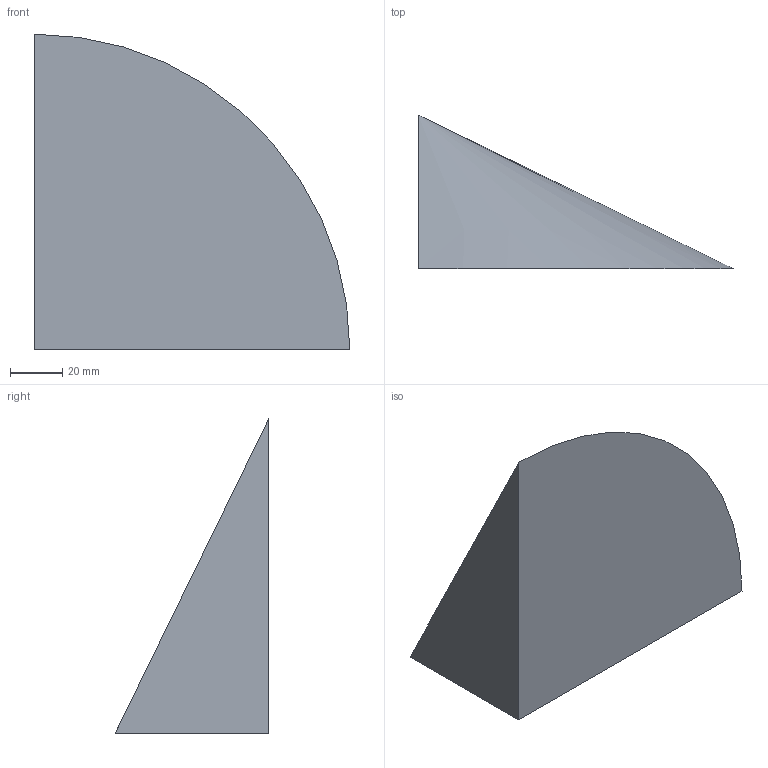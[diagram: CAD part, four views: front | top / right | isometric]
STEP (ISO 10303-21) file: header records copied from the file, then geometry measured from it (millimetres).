
FILE_DESCRIPTION(('CATIA V5 STEP Exchange'),'2;1');
FILE_NAME('C:\_Andres\UNIVERSIDAD\IQS\ASIGNATURAS\DAO\EXF\EXF-16172c\2inicio\Pares_Guanybens_Ej07_v21.stp','2017-03-05T21:18:13+00:00',('none'),('none'),'CATIA Version 5-6 Release 2014 SP1 HF18','CATIA V5 STEP AP203','none');
FILE_SCHEMA(('CONFIG_CONTROL_DESIGN'));
Length unit declared in the file: millimetre
Products named in the file (1): Pares_Guanybens_Ej07_v21
Bounding box: 121 x 59 x 121 mm (x, y, z)
Volume: 226147.3 mm3; surface area: 31431.2 mm2
Topology: 1 solids, 1 shells, 4 faces, 7 edges, 4 vertices
Faces by surface type: plane 3, cone 1
Entity records: 131 total; most frequent: CARTESIAN_POINT 15, DIRECTION 14, ORIENTED_EDGE 12, AXIS2_PLACEMENT_3D 6, EDGE_CURVE 6, VECTOR 5, LINE 5, ADVANCED_FACE 4
